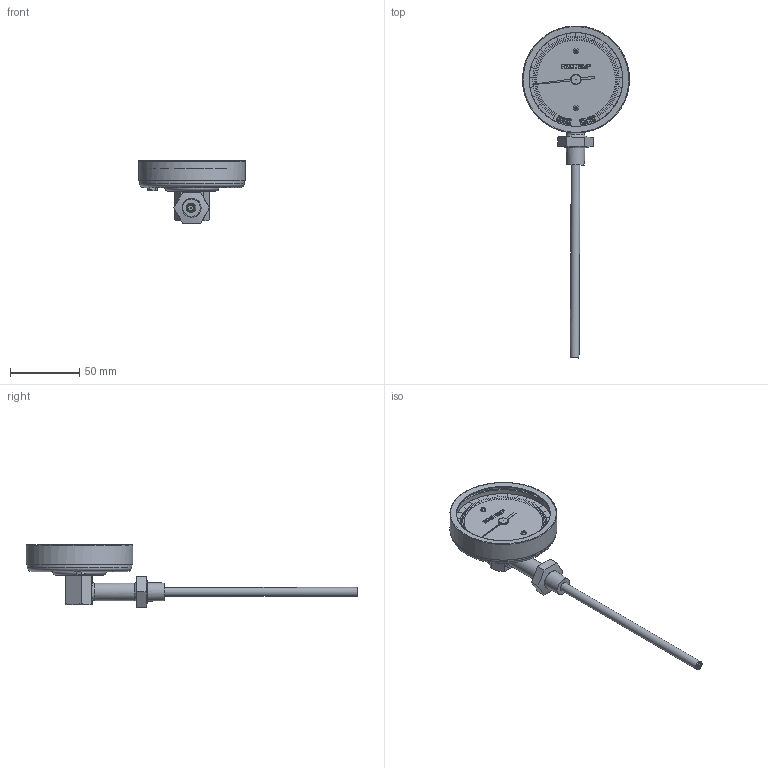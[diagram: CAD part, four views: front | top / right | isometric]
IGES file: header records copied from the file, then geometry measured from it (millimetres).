
Global section: file name: XR-quarter-NPT-IGS; native system: Autodesk Inventor 2014; preprocessor: unknown; author: Charles; date: 20151109.113712; units: inch
Bounding box: 77.45 x 240.46 x 45.2 mm (x, y, z)
Volume: 53754.5 mm3; surface area: 47045.5 mm2
Topology: 33 solids, 33 shells, 1672 faces, 4800 edges, 3208 vertices
Faces by surface type: bspline 1672
